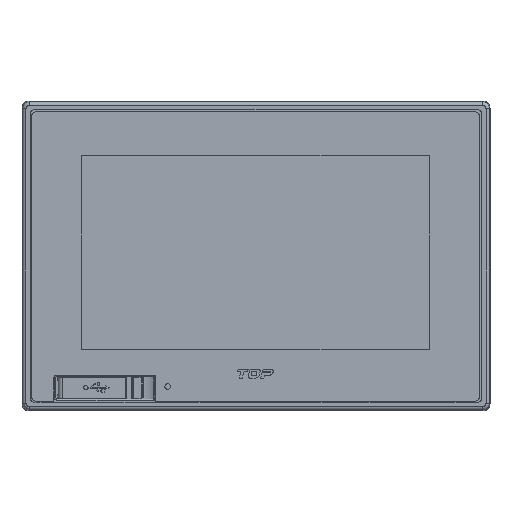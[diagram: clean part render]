
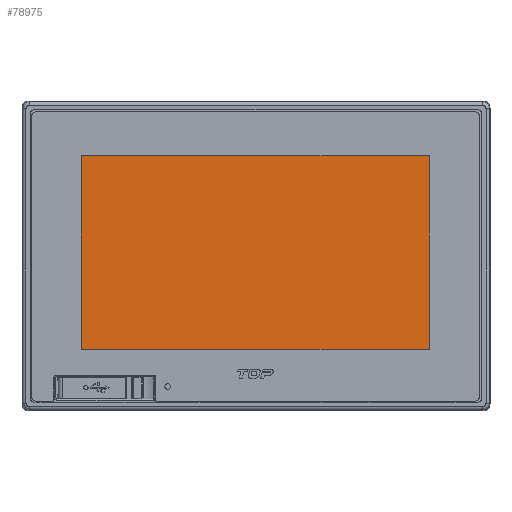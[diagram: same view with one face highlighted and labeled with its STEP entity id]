
A CAD part, top view. The second image highlights one B-rep face of the part: STEP entity #78975.
In plain terms, the highlighted planar face has unit normal (0, 0, 1).
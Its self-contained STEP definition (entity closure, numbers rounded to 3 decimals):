
#17687=DIRECTION('',(-1.,0.,0.));
#17688=VECTOR('',#17687,153.5);
#17689=CARTESIAN_POINT('',(76.45,44.25,-0.1));
#17690=LINE('',#17689,#17688);
#17691=DIRECTION('',(0.,1.,0.));
#17692=VECTOR('',#17691,85.5);
#17693=CARTESIAN_POINT('',(76.45,-41.25,-0.1));
#17694=LINE('',#17693,#17692);
#17695=DIRECTION('',(1.,0.,0.));
#17696=VECTOR('',#17695,153.5);
#17697=CARTESIAN_POINT('',(-77.05,-41.25,-0.1));
#17698=LINE('',#17697,#17696);
#17699=DIRECTION('',(0.,-1.,0.));
#17700=VECTOR('',#17699,85.5);
#17701=CARTESIAN_POINT('',(-77.05,44.25,-0.1));
#17702=LINE('',#17701,#17700);
#51524=CARTESIAN_POINT('',(76.45,44.25,-0.1));
#51525=CARTESIAN_POINT('',(-77.05,44.25,-0.1));
#51526=VERTEX_POINT('',#51524);
#51527=VERTEX_POINT('',#51525);
#51528=CARTESIAN_POINT('',(-77.05,-41.25,-0.1));
#51529=VERTEX_POINT('',#51528);
#51530=CARTESIAN_POINT('',(76.45,-41.25,-0.1));
#51531=VERTEX_POINT('',#51530);
#78960=CARTESIAN_POINT('',(-99.05,-64.05,-0.1));
#78961=DIRECTION('',(0.,0.,1.));
#78962=DIRECTION('',(1.,0.,0.));
#78963=AXIS2_PLACEMENT_3D('',#78960,#78961,#78962);
#78964=PLANE('',#78963);
#78966=ORIENTED_EDGE('',*,*,#78965,.F.);
#78968=ORIENTED_EDGE('',*,*,#78967,.F.);
#78970=ORIENTED_EDGE('',*,*,#78969,.F.);
#78972=ORIENTED_EDGE('',*,*,#78971,.F.);
#78973=EDGE_LOOP('',(#78966,#78968,#78970,#78972));
#78974=FACE_OUTER_BOUND('',#78973,.F.);
#78975=ADVANCED_FACE('',(#78974),#78964,.T.);
#78965=EDGE_CURVE('',#51526,#51527,#17690,.T.);
#78967=EDGE_CURVE('',#51531,#51526,#17694,.T.);
#78969=EDGE_CURVE('',#51529,#51531,#17698,.T.);
#78971=EDGE_CURVE('',#51527,#51529,#17702,.T.);
